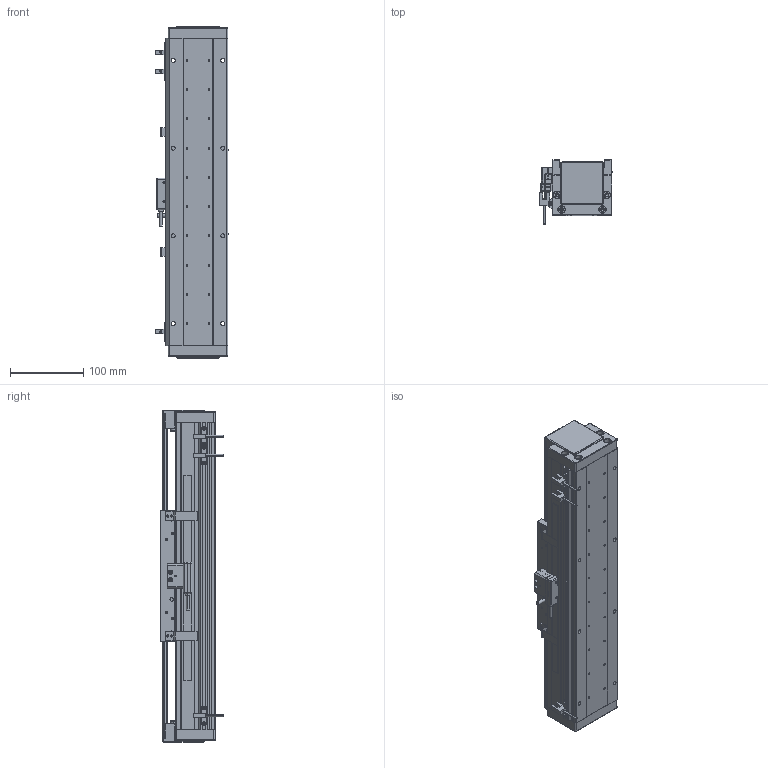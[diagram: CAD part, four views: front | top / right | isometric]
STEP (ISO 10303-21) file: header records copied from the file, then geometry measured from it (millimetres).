
FILE_DESCRIPTION (( 'STEP AP203' ), '1' );
FILE_NAME ('DA-A82-B2-T200-C010-0.2 眻盄萇儂.STEP', '2025-08-13T03:02:56', ( '' ), ( '' ), 'SwSTEP 2.0', 'SolidWorks 2019', '' );
FILE_SCHEMA (( 'CONFIG_CONTROL_DESIGN' ));
Length unit declared in the file: millimetre
Products named in the file (21): 复件 DA95-GT-T-00 底座钢轨^IU-AU82-L 底座导轨; DA-A82-B2-T200-C010-0.2 眻盄萇儂; AU82-HT-M-00 賑雄怢啣; AU82-M 幗紩賑怢; 葩璃 PM-T45^DA-A82-B2-T-C010-0.2; 复件 DA82-DG-H-N-00 端盖^DA-A82-B2-T-C010-0.2(默认_按加工_); ｸｴｼ BKM02-W040-C1-TP-DA-3.0 ﾖｱﾏﾟｵ扈巐ｯﾗﾓ^DA-A82-B2-T-C010-0.2; 葩璃 DA82-B2-DP-00 結え^AU82-M 幗紩賑怢; 复件 复件 DA82-XJ-00 缓冲橡胶^DA-A82-B2-T-C010-0.2; 葩璃 鞠褒情蹟譫 M3^DA-A82-B2-T-C010-0.2; IU-AU82-L 菁釱絳寢; IU-AU82-L-00 菁釱(L420); DA-A60-GYP-DMT-00 光电感应片^DA-A82-B2-T-C010-0.2(默认); 葩璃 DA82-T-002-00 裔啣^DA-A82-B2-T-C010-0.2; 葩璃 BKM01-W040-TRL^DA-A82-B2-T-C010-0.2; AU82-M-00 珨极趙賑雄怢啣; 葩璃 XD-U-02  棠掑喜^DA-A82-B2-T-C010-0.2; 葩璃 DMT-010 1米m 0.2M^DA-A82-B2-T-C010-0.2; 复件 纯铜油杯 6x6mm^AU82-M 滚珠滑台; 葩璃 DA60-DMT-DTJ-00 黍杅芛盓殤^DA-A82-B2-T-C010-0.2; 复件 DA95-B2-GT-00 滑块钢轨^AU82-M-00 一体化滑动台板
Assembly tree (36 placements, depth 4):
  DA-A82-B2-T200-C010-0.2 眻盄萇儂
    IU-AU82-L 菁釱絳寢
      IU-AU82-L-00 菁釱(L420)
      复件 DA95-GT-T-00 底座钢轨^IU-AU82-L 底座导轨  x2
    AU82-M 幗紩賑怢
      AU82-M-00 珨极趙賑雄怢啣
        AU82-HT-M-00 賑雄怢啣
        复件 DA95-B2-GT-00 滑块钢轨^AU82-M-00 一体化滑动台板  x4
      葩璃 DA82-B2-DP-00 結え^AU82-M 幗紩賑怢  x2
      复件 纯铜油杯 6x6mm^AU82-M 滚珠滑台  x2
    葩璃 DA60-DMT-DTJ-00 黍杅芛盓殤^DA-A82-B2-T-C010-0.2
    葩璃 DMT-010 1米m 0.2M^DA-A82-B2-T-C010-0.2
    DA-A60-GYP-DMT-00 光电感应片^DA-A82-B2-T-C010-0.2(默认)  x2
    ｸｴｼ BKM02-W040-C1-TP-DA-3.0 ﾖｱﾏﾟｵ扈巐ｯﾗﾓ^DA-A82-B2-T-C010-0.2
    复件 复件 DA82-XJ-00 缓冲橡胶^DA-A82-B2-T-C010-0.2  x2
    复件 DA82-DG-H-N-00 端盖^DA-A82-B2-T-C010-0.2(默认_按加工_)  x2
    葩璃 DA82-T-002-00 裔啣^DA-A82-B2-T-C010-0.2
    葩璃 BKM01-W040-TRL^DA-A82-B2-T-C010-0.2
    葩璃 PM-T45^DA-A82-B2-T-C010-0.2  x3
    葩璃 XD-U-02  棠掑喜^DA-A82-B2-T-C010-0.2
    葩璃 鞠褒情蹟譫 M3^DA-A82-B2-T-C010-0.2  x6
Bounding box: 98.95 x 87.2 x 454 mm (x, y, z)
Volume: 1759773.1 mm3; surface area: 491109.7 mm2
Topology: 40 solids, 64 shells, 1859 faces, 4762 edges, 2940 vertices
Faces by surface type: cylinder 787, plane 764, cone 252, torus 38, bspline 12, sphere 6
Entity records: 46533 total; most frequent: CARTESIAN_POINT 9753, DIRECTION 7366, ORIENTED_EDGE 6846, EDGE_CURVE 3423, AXIS2_PLACEMENT_3D 2736, VERTEX_POINT 2207, VECTOR 1894, LINE 1894
